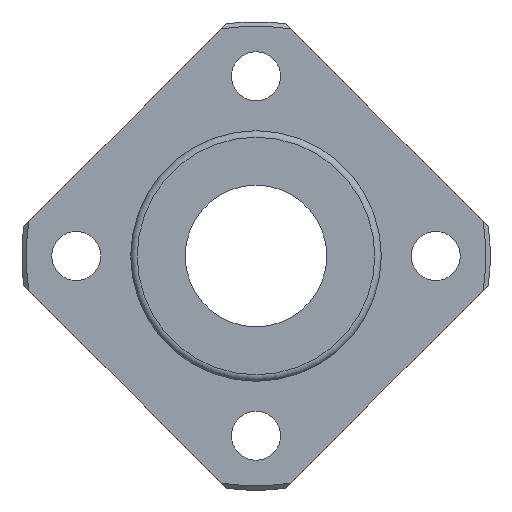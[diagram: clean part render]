
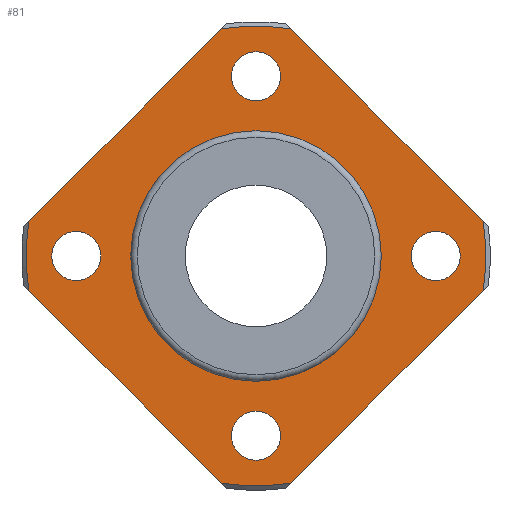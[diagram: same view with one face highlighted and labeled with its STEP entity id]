
A CAD part, left-side view. The second image highlights one B-rep face of the part: STEP entity #81.
In plain terms, the highlighted planar face has unit normal (-1, 0, 0).
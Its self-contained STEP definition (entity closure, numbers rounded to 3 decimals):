
#81=ADVANCED_FACE('',(#124,#125,#126,#127,#128,#129),#130,.T.);
#124=FACE_BOUND('',#224,.T.);
#125=FACE_BOUND('',#225,.T.);
#126=FACE_BOUND('',#226,.T.);
#127=FACE_BOUND('',#227,.T.);
#128=FACE_BOUND('',#228,.T.);
#129=FACE_OUTER_BOUND('',#229,.T.);
#130=PLANE('',#230);
#224=EDGE_LOOP('',(#362));
#225=EDGE_LOOP('',(#363));
#226=EDGE_LOOP('',(#364));
#227=EDGE_LOOP('',(#365));
#228=EDGE_LOOP('',(#366));
#229=EDGE_LOOP('',(#367,#368,#369,#370,#371,#372,#373,#374));
#230=AXIS2_PLACEMENT_3D('',#375,#376,#377);
#362=ORIENTED_EDGE('',*,*,#589,.F.);
#363=ORIENTED_EDGE('',*,*,#590,.T.);
#364=ORIENTED_EDGE('',*,*,#591,.T.);
#365=ORIENTED_EDGE('',*,*,#592,.T.);
#366=ORIENTED_EDGE('',*,*,#593,.T.);
#367=ORIENTED_EDGE('',*,*,#572,.T.);
#368=ORIENTED_EDGE('',*,*,#574,.T.);
#369=ORIENTED_EDGE('',*,*,#594,.T.);
#370=ORIENTED_EDGE('',*,*,#595,.T.);
#371=ORIENTED_EDGE('',*,*,#596,.T.);
#372=ORIENTED_EDGE('',*,*,#562,.T.);
#373=ORIENTED_EDGE('',*,*,#597,.T.);
#374=ORIENTED_EDGE('',*,*,#598,.T.);
#375=CARTESIAN_POINT('',(-6.0,16.125,0.0));
#376=DIRECTION('',(-1.0,0.0,0.));
#377=DIRECTION('',(0.,0.0,1.0));
#562=EDGE_CURVE('',#633,#634,#635,.T.);
#572=EDGE_CURVE('',#654,#652,#655,.T.);
#574=EDGE_CURVE('',#652,#657,#658,.T.);
#589=EDGE_CURVE('',#683,#683,#684,.T.);
#590=EDGE_CURVE('',#685,#685,#686,.T.);
#591=EDGE_CURVE('',#687,#687,#688,.T.);
#592=EDGE_CURVE('',#689,#689,#690,.T.);
#593=EDGE_CURVE('',#691,#691,#692,.T.);
#594=EDGE_CURVE('',#657,#693,#694,.T.);
#595=EDGE_CURVE('',#693,#695,#696,.T.);
#596=EDGE_CURVE('',#695,#633,#697,.T.);
#597=EDGE_CURVE('',#634,#698,#699,.T.);
#598=EDGE_CURVE('',#698,#654,#700,.T.);
#633=VERTEX_POINT('',#759);
#634=VERTEX_POINT('',#760);
#635=LINE('',#761,#762);
#652=VERTEX_POINT('',#794);
#654=VERTEX_POINT('',#799);
#655=CIRCLE('',#800,21.1);
#657=VERTEX_POINT('',#805);
#658=LINE('',#806,#807);
#683=VERTEX_POINT('',#847);
#684=CIRCLE('',#848,11.15);
#685=VERTEX_POINT('',#849);
#686=CIRCLE('',#850,2.25);
#687=VERTEX_POINT('',#851);
#688=CIRCLE('',#852,2.25);
#689=VERTEX_POINT('',#853);
#690=CIRCLE('',#854,2.25);
#691=VERTEX_POINT('',#855);
#692=CIRCLE('',#856,2.25);
#693=VERTEX_POINT('',#857);
#694=CIRCLE('',#858,21.1);
#695=VERTEX_POINT('',#859);
#696=LINE('',#860,#861);
#697=CIRCLE('',#862,21.1);
#698=VERTEX_POINT('',#863);
#699=CIRCLE('',#864,21.1);
#700=LINE('',#865,#866);
#759=CARTESIAN_POINT('',(-6.0,-3.183,-20.859));
#760=CARTESIAN_POINT('',(-6.0,-20.859,-3.183));
#761=CARTESIAN_POINT('',(-6.0,-3.958,-20.083));
#762=VECTOR('',#949,1.0);
#794=CARTESIAN_POINT('',(-6.0,3.183,20.859));
#799=CARTESIAN_POINT('',(-6.0,-3.183,20.859));
#800=AXIS2_PLACEMENT_3D('',#956,#957,#958);
#805=CARTESIAN_POINT('',(-6.0,20.859,3.183));
#806=CARTESIAN_POINT('',(-6.0,20.083,3.958));
#807=VECTOR('',#959,1.0);
#847=CARTESIAN_POINT('',(-6.0,11.15,0.0));
#848=AXIS2_PLACEMENT_3D('',#981,#982,#983);
#849=CARTESIAN_POINT('',(-6.0,16.5,2.25));
#850=AXIS2_PLACEMENT_3D('',#984,#985,#986);
#851=CARTESIAN_POINT('',(-6.0,0.0,18.75));
#852=AXIS2_PLACEMENT_3D('',#987,#988,#989);
#853=CARTESIAN_POINT('',(-6.0,-16.5,2.25));
#854=AXIS2_PLACEMENT_3D('',#990,#991,#992);
#855=CARTESIAN_POINT('',(-6.0,0.0,-14.25));
#856=AXIS2_PLACEMENT_3D('',#993,#994,#995);
#857=CARTESIAN_POINT('',(-6.0,20.859,-3.183));
#858=AXIS2_PLACEMENT_3D('',#996,#997,#998);
#859=CARTESIAN_POINT('',(-6.0,3.183,-20.859));
#860=CARTESIAN_POINT('',(-6.0,20.083,-3.958));
#861=VECTOR('',#999,1.0);
#862=AXIS2_PLACEMENT_3D('',#1000,#1001,#1002);
#863=CARTESIAN_POINT('',(-6.0,-20.859,3.183));
#864=AXIS2_PLACEMENT_3D('',#1003,#1004,#1005);
#865=CARTESIAN_POINT('',(-6.0,-3.958,20.083));
#866=VECTOR('',#1006,1.0);
#949=DIRECTION('',(0.,-0.707,0.707));
#956=CARTESIAN_POINT('',(-6.0,0.0,0.0));
#957=DIRECTION('',(-1.0,0.0,0.));
#958=DIRECTION('',(0.0,1.0,0.0));
#959=DIRECTION('',(0.,0.707,-0.707));
#981=CARTESIAN_POINT('',(-6.0,0.0,0.0));
#982=DIRECTION('',(-1.0,0.0,0.));
#983=DIRECTION('',(0.0,1.0,0.0));
#984=CARTESIAN_POINT('',(-6.0,16.5,0.));
#985=DIRECTION('',(1.0,0.0,0.));
#986=DIRECTION('',(0.,0.0,-1.0));
#987=CARTESIAN_POINT('',(-6.0,0.0,16.5));
#988=DIRECTION('',(1.0,0.0,0.));
#989=DIRECTION('',(0.,0.0,-1.0));
#990=CARTESIAN_POINT('',(-6.0,-16.5,0.));
#991=DIRECTION('',(1.0,0.0,0.));
#992=DIRECTION('',(0.,0.0,-1.0));
#993=CARTESIAN_POINT('',(-6.0,0.0,-16.5));
#994=DIRECTION('',(1.0,0.0,0.));
#995=DIRECTION('',(0.,0.0,-1.0));
#996=CARTESIAN_POINT('',(-6.0,0.0,0.0));
#997=DIRECTION('',(-1.0,0.0,0.));
#998=DIRECTION('',(0.0,1.0,0.0));
#999=DIRECTION('',(0.,-0.707,-0.707));
#1000=CARTESIAN_POINT('',(-6.0,0.0,0.0));
#1001=DIRECTION('',(-1.0,0.0,0.));
#1002=DIRECTION('',(0.0,1.0,0.0));
#1003=CARTESIAN_POINT('',(-6.0,0.0,0.0));
#1004=DIRECTION('',(-1.0,0.0,0.));
#1005=DIRECTION('',(0.0,1.0,0.0));
#1006=DIRECTION('',(0.,0.707,0.707));
